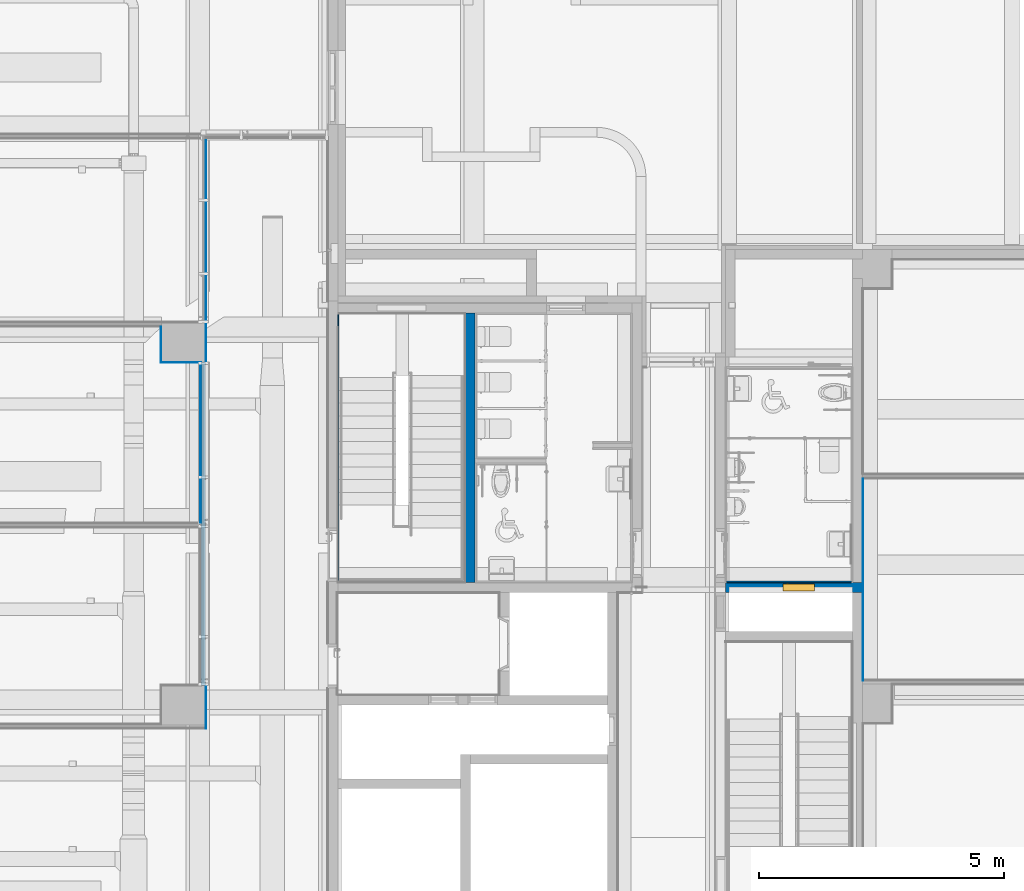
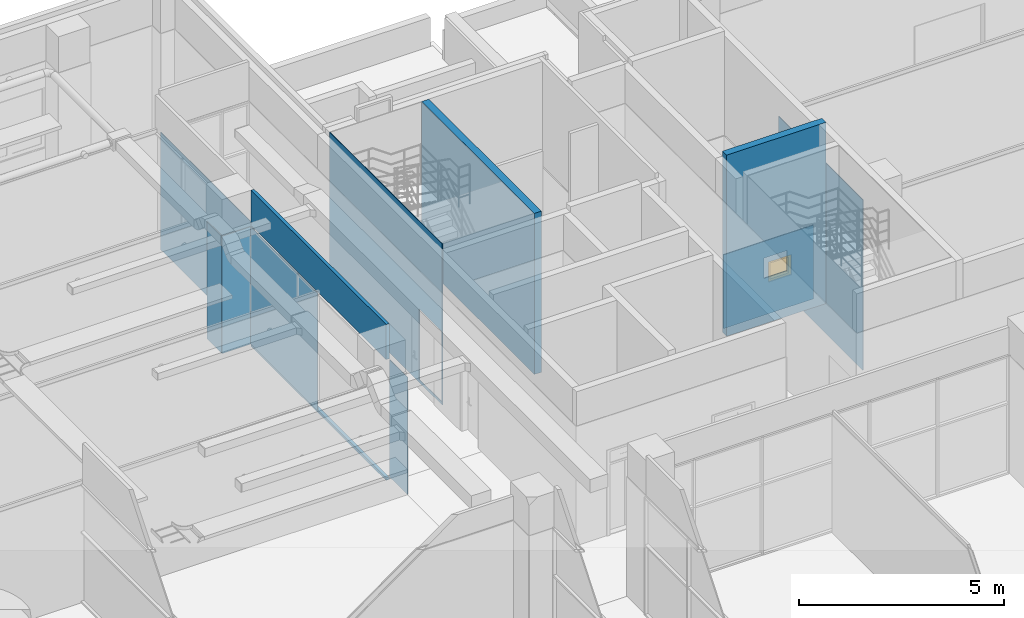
# One storey, part 46 of 100: 10 walls, 1 door, 5 openings.
"""IFC2X3 building model written with IfcOpenShell, lengths in millimetres."""

from ifc_helpers import new_model, entity, si_unit, converted_unit, derived_unit, direction, frame, frame_2d, origin, origin_2d_with_axis, place, context, subcontext, project, spatial, rectangle, extrude, faceted_brep, source, transform, mapped, material, material_list, layer, layer_set, layer_usage, type_object, type_shapes, element, fill, save


model = new_model("IFC2X3")

# Units and contexts
model_context = context("Model", 3, precision=0.01, world=origin(), true_north=direction((6.123031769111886e-17, 1.0)))
body_context = subcontext(model_context, "Body", "Model", "MODEL_VIEW")
ifc_project = project(units=[si_unit("LENGTHUNIT", "METRE", prefix="MILLI"), si_unit("AREAUNIT", "SQUARE_METRE"), si_unit("VOLUMEUNIT", "CUBIC_METRE"), converted_unit("PLANEANGLEUNIT", "DEGREE", entity("IfcRatioMeasure", 0.017453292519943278), si_unit("PLANEANGLEUNIT", "RADIAN"), dimensions=[0, 0, 0, 0, 0, 0, 0]), si_unit("MASSUNIT", "GRAM", prefix="KILO"), derived_unit("MASSDENSITYUNIT", [(si_unit("MASSUNIT", "GRAM", prefix="KILO"), 1), (si_unit("LENGTHUNIT", "METRE"), -3)]), derived_unit("MOMENTOFINERTIAUNIT", [(si_unit("LENGTHUNIT", "METRE"), 4)]), si_unit("TIMEUNIT", "SECOND"), si_unit("FREQUENCYUNIT", "HERTZ"), si_unit("THERMODYNAMICTEMPERATUREUNIT", "DEGREE_CELSIUS"), derived_unit("THERMALTRANSMITTANCEUNIT", [(si_unit("MASSUNIT", "GRAM", prefix="KILO"), 1), (si_unit("THERMODYNAMICTEMPERATUREUNIT", "KELVIN"), -1), (si_unit("TIMEUNIT", "SECOND"), -3)]), derived_unit("VOLUMETRICFLOWRATEUNIT", [(si_unit("LENGTHUNIT", "METRE"), 3), (si_unit("TIMEUNIT", "SECOND"), -1)]), derived_unit("MASSFLOWRATEUNIT", [(si_unit("MASSUNIT", "GRAM", prefix="KILO"), 1), (si_unit("TIMEUNIT", "SECOND"), -1)]), derived_unit("ROTATIONALFREQUENCYUNIT", [(si_unit("TIMEUNIT", "SECOND"), -1)]), si_unit("ELECTRICCURRENTUNIT", "AMPERE"), si_unit("ELECTRICVOLTAGEUNIT", "VOLT"), si_unit("POWERUNIT", "WATT"), si_unit("FORCEUNIT", "NEWTON", prefix="KILO"), si_unit("ILLUMINANCEUNIT", "LUX"), si_unit("LUMINOUSFLUXUNIT", "LUMEN"), si_unit("LUMINOUSINTENSITYUNIT", "CANDELA"), derived_unit("USERDEFINED", [(si_unit("MASSUNIT", "GRAM", prefix="KILO"), -1), (si_unit("LENGTHUNIT", "METRE"), -2), (si_unit("TIMEUNIT", "SECOND"), 3), (si_unit("LUMINOUSFLUXUNIT", "LUMEN"), 1)]), derived_unit("SOUNDPOWERUNIT", [(si_unit("MASSUNIT", "GRAM", prefix="KILO"), 1), (si_unit("LENGTHUNIT", "METRE"), 2), (si_unit("TIMEUNIT", "SECOND"), -3)]), derived_unit("SOUNDPRESSUREUNIT", [(si_unit("MASSUNIT", "GRAM", prefix="KILO"), 1), (si_unit("LENGTHUNIT", "METRE"), -1), (si_unit("TIMEUNIT", "SECOND"), -2)]), derived_unit("LINEARVELOCITYUNIT", [(si_unit("LENGTHUNIT", "METRE"), 1), (si_unit("TIMEUNIT", "SECOND"), -1)]), si_unit("PRESSUREUNIT", "PASCAL"), derived_unit("USERDEFINED", [(si_unit("LENGTHUNIT", "METRE"), -2), (si_unit("MASSUNIT", "GRAM", prefix="KILO"), 1), (si_unit("TIMEUNIT", "SECOND"), -2)]), derived_unit("LINEARFORCEUNIT", [(si_unit("MASSUNIT", "GRAM", prefix="KILO"), 1), (si_unit("LENGTHUNIT", "METRE"), 1), (si_unit("TIMEUNIT", "SECOND"), -2), (si_unit("LENGTHUNIT", "METRE"), -1)]), derived_unit("PLANARFORCEUNIT", [(si_unit("MASSUNIT", "GRAM", prefix="KILO"), 1), (si_unit("LENGTHUNIT", "METRE"), 1), (si_unit("TIMEUNIT", "SECOND"), -2), (si_unit("LENGTHUNIT", "METRE"), -2)])], contexts=[model_context])

# Site, building, storey
site_placement = place(None, frame((-14167.972527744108, -657.2125860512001, 0.0)))
site = spatial("IfcSite", under=ifc_project, at=site_placement, Name="Default", CompositionType="ELEMENT")
building_placement = place(site_placement, origin())
building = spatial("IfcBuilding", under=site, at=building_placement, Name="Sample Building", CompositionType="ELEMENT")
storey_placement = place(building_placement, origin())
storey = spatial("IfcBuildingStorey", under=building, at=storey_placement, Name="지상 1층", CompositionType="ELEMENT", Elevation=0.0)

# Wall
ifc_material_1 = material(Name="KBIMS-콘크리트")
ifc_layer_1 = layer(ifc_material_1, 200.0)
ifc_layer_set_1 = layer_set([ifc_layer_1], Name="기본 벽:WA111-철근콘크리트구조 벽 200mm_CW1")
ifc_layer_usage_1 = layer_usage(ifc_layer_set_1, "AXIS2", "NEGATIVE", 100.0)
wall_type_1 = type_object("IfcWallType", Name="기본 벽:WA111-철근콘크리트구조 벽 200mm_CW1", PredefinedType="STANDARD", material=ifc_layer_set_1)
wall_1_placement = place(storey_placement, frame((32967.97249113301, 27957.212307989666, 0.0), z_axis=(0.0, 0.0, 1.0), x_axis=(0.0, -1.0, 0.0)))
element("IfcWallStandardCase", 1, at=wall_1_placement, inside=storey, type_object=wall_type_1, material=ifc_layer_usage_1, Name="기본 벽:WA111-철근콘크리트구조 벽 200mm_CW1", ObjectType="기본 벽:WA111-철근콘크리트구조 벽 200mm_CW1", context=body_context, shape_type="SweptSolid", body=[
    extrude(rectangle(XDim=5499.999996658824, YDim=199.99999999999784, at=frame_2d((2749.999998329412, -4.263256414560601e-14), x_axis=(-1.0, 0.0))), origin(), (0.0, 0.0, 1.0), 4799.999999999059),
])

# Wall, opening, door
ifc_layer_usage_2 = layer_usage(ifc_layer_set_1, "AXIS2", "NEGATIVE", 100.0)
wall_2_placement = place(storey_placement, frame((40967.963798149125, 22357.21229848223, -600.0), z_axis=(0.0, 0.0, 1.0), x_axis=(-1.0, 0.0, 0.0)))
wall_2 = element("IfcWallStandardCase", 2, at=wall_2_placement, inside=storey, type_object=wall_type_1, material=ifc_layer_usage_2, Name="기본 벽:WA111-철근콘크리트구조 벽 200mm_CW1", ObjectType="기본 벽:WA111-철근콘크리트구조 벽 200mm_CW1", context=body_context, shape_type="SweptSolid", body=[
    extrude(rectangle(XDim=2800.000000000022, YDim=200.00000000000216, at=frame_2d((1400.000000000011, -1.8260948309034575e-12), x_axis=(-1.0, 0.0))), origin(), (0.0, 0.0, 1.0), 5400.000000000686),
])
opening_1_placement = place(wall_2_placement, frame((1624.991397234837, 100.0, 1200.0)))
opening_1 = element("IfcOpeningElement", 3, at=opening_1_placement, cuts=wall_2, Name="DR872-샤프트 점검구(스테인리스 스틸):DR872-샤프트 점검구(스테인리스 스틸)_650x600:1", ObjectType="Opening", context=body_context, shape_type="SweptSolid", body=[
    extrude(rectangle(XDim=600.0, YDim=649.9999999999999, at=frame_2d((300.0, 324.99999999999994), x_axis=(1.0, 0.0))), frame((0.0, 0.0, 0.0), z_axis=(0.0, -1.0, 0.0), x_axis=(0.0, 0.0, 1.0)), (0.0, 0.0, 1.0), 200.0),
])
ifc_material_2 = material(Name="KBIMS-스테인리스 스틸_도금")
ifc_material_list_1 = material_list([ifc_material_2, ifc_material_2, ifc_material_2, ifc_material_2])
ifc_material_list_2 = material_list([ifc_material_2, ifc_material_2, ifc_material_2, ifc_material_2])
door_style = type_object("IfcDoorStyle", Name="DR872-샤프트 점검구(스테인리스 스틸):DR872-샤프트 점검구(스테인리스 스틸)_650x600", ConstructionType="NOTDEFINED", OperationType="SINGLE_SWING_LEFT", ParameterTakesPrecedence=False, Sizeable=False, material=ifc_material_list_2)
shared_shape = source(origin(), body_context, "Body", "Brep", [
    faceted_brep([(105.0, 125.0, 282.67949192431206), (109.1421356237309, 125.0, 285.85786437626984), (102.50000000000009, 125.0, 287.0096189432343), (98.8822856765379, 125.0, 285.51111260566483), (100.17638090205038, 125.0, 280.6814834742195), (105.6066017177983, 125.0, 289.39339828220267), (112.32050807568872, 125.0, 290.0), (107.99038105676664, 125.0, 292.50000000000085), (109.48888739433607, 125.0, 296.1177143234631), (114.31851652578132, 125.0, 294.82361909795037), (110.0, 125.0, 300.0), (115.0, 125.0, 300.0), (109.48888739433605, 125.0, 303.8822856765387), (114.31851652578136, 125.0, 305.17638090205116), (107.9903810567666, 125.0, 307.5000000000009), (112.32050807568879, 125.0, 310.0), (105.60660171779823, 125.0, 310.6066017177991), (109.14213562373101, 125.0, 314.1421356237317), (102.50000000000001, 125.0, 312.9903810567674), (105.0, 125.0, 317.32050807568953), (98.8822856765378, 125.0, 314.48888739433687), (100.17638090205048, 125.0, 319.3185165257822), (95.0, 125.0, 315.0), (95.0, 125.0, 320.0), (91.11771432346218, 125.0, 314.48888739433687), (89.82361909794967, 125.0, 319.31851652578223), (87.5, 125.0, 312.9903810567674), (85.0, 125.0, 317.32050807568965), (84.39339828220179, 125.0, 310.6066017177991), (80.85786437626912, 125.0, 314.14213562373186), (82.00961894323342, 125.0, 307.5000000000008), (77.6794919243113, 125.0, 310.0), (75.68148347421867, 125.0, 305.17638090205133), (80.51111260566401, 125.0, 303.88228567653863), (75.0, 125.0, 300.0), (80.0, 125.0, 300.0), (75.68148347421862, 125.0, 294.8236190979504), (80.51111260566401, 125.0, 296.1177143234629), (77.67949192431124, 125.0, 290.0), (82.00961894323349, 125.0, 292.50000000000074), (80.85786437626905, 125.0, 285.8578643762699), (84.39339828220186, 125.0, 289.39339828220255), (85.0, 125.0, 282.67949192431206), (87.50000000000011, 125.0, 287.0096189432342), (89.82361909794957, 125.0, 280.6814834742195), (91.11771432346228, 125.0, 285.5111126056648), (95.0, 125.0, 280.0), (95.0, 125.0, 285.0), (105.0, 130.0, 317.32050807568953), (109.14213562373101, 130.0, 314.1421356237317), (102.50000000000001, 130.0, 312.9903810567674), (98.8822856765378, 130.0, 314.48888739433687), (100.17638090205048, 130.0, 319.3185165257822), (105.60660171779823, 130.0, 310.6066017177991), (112.32050807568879, 130.0, 310.0), (107.9903810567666, 130.0, 307.5000000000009), (109.48888739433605, 130.0, 303.8822856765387), (114.31851652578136, 130.0, 305.17638090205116), (110.0, 130.0, 300.0), (115.0, 130.0, 300.0), (109.48888739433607, 130.0, 296.1177143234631), (114.31851652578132, 130.0, 294.82361909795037), (107.99038105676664, 130.0, 292.50000000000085), (112.32050807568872, 130.0, 290.0), (105.6066017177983, 130.0, 289.39339828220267), (109.1421356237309, 130.0, 285.85786437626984), (102.50000000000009, 130.0, 287.0096189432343), (105.0, 130.0, 282.67949192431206), (98.8822856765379, 130.0, 285.51111260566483), (100.17638090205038, 130.0, 280.6814834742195), (95.0, 130.0, 285.0), (95.0, 130.0, 280.0), (91.11771432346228, 130.0, 285.5111126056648), (89.82361909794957, 130.0, 280.6814834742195), (87.50000000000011, 130.0, 287.0096189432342), (85.0, 130.0, 282.67949192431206), (84.39339828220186, 130.0, 289.39339828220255), (80.85786437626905, 130.0, 285.8578643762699), (82.00961894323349, 130.0, 292.50000000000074), (77.67949192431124, 130.0, 290.0), (75.68148347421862, 130.0, 294.8236190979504), (80.51111260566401, 130.0, 296.1177143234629), (75.0, 130.0, 300.0), (80.0, 130.0, 300.0), (75.68148347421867, 130.0, 305.17638090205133), (80.51111260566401, 130.0, 303.88228567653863), (77.6794919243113, 130.0, 310.0), (82.00961894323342, 130.0, 307.5000000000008), (80.85786437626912, 130.0, 314.14213562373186), (84.39339828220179, 130.0, 310.6066017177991), (85.0, 130.0, 317.32050807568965), (87.5, 130.0, 312.9903810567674), (89.82361909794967, 130.0, 319.31851652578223), (91.11771432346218, 130.0, 314.48888739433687), (95.0, 130.0, 320.0), (95.0, 130.0, 315.0)], [[[0, 1, 2]], [[0, 2, 3]], [[3, 4, 0]], [[2, 1, 5]], [[6, 5, 1]], [[7, 5, 6]], [[8, 7, 6]], [[8, 6, 9]], [[8, 9, 10]], [[10, 9, 11]], [[12, 10, 11]], [[12, 11, 13]], [[14, 12, 13]], [[14, 13, 15]], [[16, 14, 15]], [[15, 17, 16]], [[17, 18, 16]], [[18, 17, 19]], [[18, 19, 20]], [[21, 20, 19]], [[20, 21, 22]], [[22, 21, 23]], [[23, 24, 22]], [[24, 23, 25]], [[24, 25, 26]], [[27, 26, 25]], [[27, 28, 26]], [[27, 29, 28]], [[30, 28, 29]], [[31, 30, 29]], [[32, 30, 31]], [[33, 30, 32]], [[33, 32, 34]], [[34, 35, 33]], [[36, 35, 34]], [[36, 37, 35]], [[37, 36, 38]], [[39, 37, 38]], [[39, 38, 40]], [[39, 40, 41]], [[40, 42, 41]], [[41, 42, 43]], [[43, 42, 44]], [[44, 45, 43]], [[46, 45, 44]], [[4, 47, 46]], [[45, 46, 47]], [[4, 3, 47]], [[48, 49, 50]], [[48, 50, 51]], [[51, 52, 48]], [[50, 49, 53]], [[54, 53, 49]], [[55, 53, 54]], [[56, 55, 54]], [[56, 54, 57]], [[56, 57, 58]], [[58, 57, 59]], [[60, 58, 59]], [[60, 59, 61]], [[62, 60, 61]], [[62, 61, 63]], [[64, 62, 63]], [[63, 65, 64]], [[65, 66, 64]], [[66, 65, 67]], [[66, 67, 68]], [[69, 68, 67]], [[68, 69, 70]], [[70, 69, 71]], [[71, 72, 70]], [[72, 71, 73]], [[72, 73, 74]], [[75, 74, 73]], [[75, 76, 74]], [[75, 77, 76]], [[78, 76, 77]], [[79, 78, 77]], [[80, 78, 79]], [[81, 78, 80]], [[81, 80, 82]], [[82, 83, 81]], [[84, 83, 82]], [[84, 85, 83]], [[85, 84, 86]], [[87, 85, 86]], [[87, 86, 88]], [[87, 88, 89]], [[88, 90, 89]], [[89, 90, 91]], [[91, 90, 92]], [[92, 93, 91]], [[94, 93, 92]], [[52, 95, 94]], [[93, 94, 95]], [[52, 51, 95]], [[10, 58, 60, 8]], [[8, 60, 62, 7]], [[2, 5, 64, 66]], [[62, 64, 5, 7]], [[3, 2, 66, 68]], [[70, 47, 3, 68]], [[45, 72, 74, 43]], [[43, 74, 76, 41]], [[37, 39, 78, 81]], [[76, 78, 39, 41]], [[35, 37, 81, 83]], [[45, 47, 70, 72]], [[35, 83, 85, 33]], [[33, 85, 87, 30]], [[26, 28, 89, 91]], [[87, 89, 28, 30]], [[24, 26, 91, 93]], [[95, 22, 24, 93]], [[20, 51, 50, 18]], [[18, 50, 53, 16]], [[12, 14, 55, 56]], [[53, 55, 14, 16]], [[10, 12, 56, 58]], [[20, 22, 95, 51]], [[57, 13, 11, 59]], [[54, 15, 13, 57]], [[19, 17, 49, 48]], [[54, 49, 17, 15]], [[21, 19, 48, 52]], [[23, 21, 52, 94]], [[92, 25, 23, 94]], [[90, 27, 25, 92]], [[31, 29, 88, 86]], [[90, 88, 29, 27]], [[32, 31, 86, 84]], [[34, 32, 84, 82]], [[80, 36, 34, 82]], [[79, 38, 36, 80]], [[42, 40, 77, 75]], [[79, 77, 40, 38]], [[44, 42, 75, 73]], [[46, 44, 73, 71]], [[69, 4, 46, 71]], [[67, 0, 4, 69]], [[6, 1, 65, 63]], [[67, 65, 1, 0]], [[9, 6, 63, 61]], [[11, 9, 61, 59]]]),
    faceted_brep([(85.0, 180.0, 282.67949192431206), (80.85786437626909, 180.0, 285.85786437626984), (87.49999999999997, 180.0, 287.0096189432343), (91.11771432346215, 180.0, 285.51111260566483), (89.8236190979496, 180.0, 280.6814834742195), (84.39339828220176, 180.0, 289.39339828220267), (77.67949192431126, 180.0, 290.0), (82.00961894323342, 180.0, 292.50000000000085), (80.51111260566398, 180.0, 296.1177143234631), (75.68148347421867, 180.0, 294.82361909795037), (80.0, 180.0, 300.0), (75.0, 180.0, 300.0), (80.51111260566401, 180.0, 303.8822856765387), (75.68148347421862, 180.0, 305.17638090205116), (82.00961894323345, 180.0, 307.5000000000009), (77.6794919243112, 180.0, 310.0), (84.39339828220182, 180.0, 310.6066017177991), (80.85786437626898, 180.0, 314.1421356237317), (87.50000000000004, 180.0, 312.9903810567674), (85.0, 180.0, 317.32050807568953), (91.11771432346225, 180.0, 314.48888739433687), (89.8236190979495, 180.0, 319.3185165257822), (95.0, 180.0, 315.0), (95.0, 180.0, 320.0), (98.88228567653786, 180.0, 314.48888739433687), (100.17638090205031, 180.0, 319.31851652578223), (102.50000000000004, 180.0, 312.9903810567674), (105.0, 180.0, 317.32050807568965), (105.60660171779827, 180.0, 310.6066017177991), (109.14213562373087, 180.0, 314.14213562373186), (107.99038105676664, 180.0, 307.5000000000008), (112.32050807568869, 180.0, 310.0), (114.31851652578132, 180.0, 305.17638090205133), (109.48888739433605, 180.0, 303.88228567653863), (115.0, 180.0, 300.0), (110.0, 180.0, 300.0), (114.31851652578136, 180.0, 294.8236190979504), (109.48888739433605, 180.0, 296.1177143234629), (112.32050807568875, 180.0, 290.0), (107.99038105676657, 180.0, 292.50000000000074), (109.14213562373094, 180.0, 285.8578643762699), (105.6066017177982, 180.0, 289.39339828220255), (105.0, 180.0, 282.67949192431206), (102.49999999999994, 180.0, 287.0096189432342), (100.17638090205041, 180.0, 280.6814834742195), (98.88228567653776, 180.0, 285.5111126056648), (95.0, 180.0, 280.0), (95.0, 180.0, 285.0), (85.0, 175.0, 317.32050807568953), (80.85786437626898, 175.0, 314.1421356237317), (87.50000000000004, 175.0, 312.9903810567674), (91.11771432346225, 175.0, 314.48888739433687), (89.8236190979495, 175.0, 319.3185165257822), (84.39339828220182, 175.0, 310.6066017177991), (77.6794919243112, 175.0, 310.0), (82.00961894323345, 175.0, 307.5000000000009), (80.51111260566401, 175.0, 303.8822856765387), (75.68148347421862, 175.0, 305.17638090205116), (80.0, 175.0, 300.0), (75.0, 175.0, 300.0), (80.51111260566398, 175.0, 296.1177143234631), (75.68148347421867, 175.0, 294.82361909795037), (82.00961894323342, 175.0, 292.50000000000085), (77.67949192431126, 175.0, 290.0), (84.39339828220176, 175.0, 289.39339828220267), (80.85786437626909, 175.0, 285.85786437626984), (87.49999999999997, 175.0, 287.0096189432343), (85.0, 175.0, 282.67949192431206), (91.11771432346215, 175.0, 285.51111260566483), (89.8236190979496, 175.0, 280.6814834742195), (95.0, 175.0, 285.0), (95.0, 175.0, 280.0), (98.88228567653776, 175.0, 285.5111126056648), (100.17638090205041, 175.0, 280.6814834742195), (102.49999999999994, 175.0, 287.0096189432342), (105.0, 175.0, 282.67949192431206), (105.6066017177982, 175.0, 289.39339828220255), (109.14213562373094, 175.0, 285.8578643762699), (107.99038105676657, 175.0, 292.50000000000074), (112.32050807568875, 175.0, 290.0), (114.31851652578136, 175.0, 294.8236190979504), (109.48888739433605, 175.0, 296.1177143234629), (115.0, 175.0, 300.0), (110.0, 175.0, 300.0), (114.31851652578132, 175.0, 305.17638090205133), (109.48888739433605, 175.0, 303.88228567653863), (112.32050807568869, 175.0, 310.0), (107.99038105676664, 175.0, 307.5000000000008), (109.14213562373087, 175.0, 314.14213562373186), (105.60660171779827, 175.0, 310.6066017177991), (105.0, 175.0, 317.32050807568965), (102.50000000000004, 175.0, 312.9903810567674), (100.17638090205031, 175.0, 319.31851652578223), (98.88228567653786, 175.0, 314.48888739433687), (95.0, 175.0, 320.0), (95.0, 175.0, 315.0)], [[[0, 1, 2]], [[0, 2, 3]], [[3, 4, 0]], [[2, 1, 5]], [[6, 5, 1]], [[7, 5, 6]], [[8, 7, 6]], [[8, 6, 9]], [[8, 9, 10]], [[10, 9, 11]], [[12, 10, 11]], [[12, 11, 13]], [[14, 12, 13]], [[14, 13, 15]], [[16, 14, 15]], [[15, 17, 16]], [[17, 18, 16]], [[18, 17, 19]], [[18, 19, 20]], [[21, 20, 19]], [[20, 21, 22]], [[22, 21, 23]], [[23, 24, 22]], [[24, 23, 25]], [[24, 25, 26]], [[27, 26, 25]], [[27, 28, 26]], [[27, 29, 28]], [[30, 28, 29]], [[31, 30, 29]], [[32, 30, 31]], [[33, 30, 32]], [[33, 32, 34]], [[34, 35, 33]], [[36, 35, 34]], [[36, 37, 35]], [[37, 36, 38]], [[39, 37, 38]], [[39, 38, 40]], [[39, 40, 41]], [[40, 42, 41]], [[41, 42, 43]], [[43, 42, 44]], [[44, 45, 43]], [[46, 45, 44]], [[4, 47, 46]], [[45, 46, 47]], [[4, 3, 47]], [[48, 49, 50]], [[48, 50, 51]], [[51, 52, 48]], [[50, 49, 53]], [[54, 53, 49]], [[55, 53, 54]], [[56, 55, 54]], [[56, 54, 57]], [[56, 57, 58]], [[58, 57, 59]], [[60, 58, 59]], [[60, 59, 61]], [[62, 60, 61]], [[62, 61, 63]], [[64, 62, 63]], [[63, 65, 64]], [[65, 66, 64]], [[66, 65, 67]], [[66, 67, 68]], [[69, 68, 67]], [[68, 69, 70]], [[70, 69, 71]], [[71, 72, 70]], [[72, 71, 73]], [[72, 73, 74]], [[75, 74, 73]], [[75, 76, 74]], [[75, 77, 76]], [[78, 76, 77]], [[79, 78, 77]], [[80, 78, 79]], [[81, 78, 80]], [[81, 80, 82]], [[82, 83, 81]], [[84, 83, 82]], [[84, 85, 83]], [[85, 84, 86]], [[87, 85, 86]], [[87, 86, 88]], [[87, 88, 89]], [[88, 90, 89]], [[89, 90, 91]], [[91, 90, 92]], [[92, 93, 91]], [[94, 93, 92]], [[52, 95, 94]], [[93, 94, 95]], [[52, 51, 95]], [[35, 83, 85, 33]], [[33, 85, 87, 30]], [[26, 28, 89, 91]], [[87, 89, 28, 30]], [[24, 26, 91, 93]], [[95, 22, 24, 93]], [[20, 51, 50, 18]], [[18, 50, 53, 16]], [[12, 14, 55, 56]], [[53, 55, 14, 16]], [[10, 12, 56, 58]], [[20, 22, 95, 51]], [[10, 58, 60, 8]], [[8, 60, 62, 7]], [[2, 5, 64, 66]], [[62, 64, 5, 7]], [[3, 2, 66, 68]], [[70, 47, 3, 68]], [[45, 72, 74, 43]], [[43, 74, 76, 41]], [[37, 39, 78, 81]], [[76, 78, 39, 41]], [[35, 37, 81, 83]], [[45, 47, 70, 72]], [[80, 36, 34, 82]], [[79, 38, 36, 80]], [[42, 40, 77, 75]], [[79, 77, 40, 38]], [[44, 42, 75, 73]], [[46, 44, 73, 71]], [[69, 4, 46, 71]], [[67, 0, 4, 69]], [[6, 1, 65, 63]], [[67, 65, 1, 0]], [[9, 6, 63, 61]], [[11, 9, 61, 59]], [[57, 13, 11, 59]], [[54, 15, 13, 57]], [[19, 17, 49, 48]], [[54, 49, 17, 15]], [[21, 19, 48, 52]], [[23, 21, 52, 94]], [[92, 25, 23, 94]], [[90, 27, 25, 92]], [[31, 29, 88, 86]], [[90, 88, 29, 27]], [[32, 31, 86, 84]], [[34, 32, 84, 82]]]),
    faceted_brep([(620.0, 175.0, 570.0), (30.0, 175.0, 570.0), (30.0, 130.0, 570.0), (620.0, 130.0, 570.0), (620.0, 175.0, 30.0), (620.0, 130.0, 30.0), (30.0, 130.0, 30.0), (30.0, 175.0, 30.0)], [[[0, 1, 2, 3]], [[4, 5, 6, 7]], [[1, 0, 4, 7]], [[2, 1, 7, 6]], [[3, 2, 6, 5]], [[0, 3, 5, 4]]]),
    faceted_brep([(30.0, 130.0, 570.0), (30.0, 175.0, 570.0), (620.0, 175.0, 570.0), (620.0, 130.0, 570.0), (60.0, 25.0, 540.0), (60.0, 130.0, 540.0), (590.0, 130.0, 540.0), (590.0, 25.0, 540.0), (0.0, 175.0, 600.0), (0.0, 25.0, 600.0), (650.0, 25.0, 600.0), (650.0, 175.0, 600.0), (620.0, 175.0, 30.0), (620.0, 130.0, 30.0), (590.0, 130.0, 60.0), (590.0, 25.0, 60.0), (650.0, 25.0, 0.0), (650.0, 175.0, 0.0), (30.0, 175.0, 30.0), (30.0, 130.0, 30.0), (60.0, 130.0, 60.0), (60.0, 25.0, 60.0), (0.0, 25.0, 0.0), (0.0, 175.0, 0.0)], [[[0, 1, 2, 3]], [[4, 5, 6, 7]], [[8, 9, 10, 11]], [[3, 2, 12, 13]], [[7, 6, 14, 15]], [[11, 10, 16, 17]], [[13, 12, 18, 19]], [[15, 14, 20, 21]], [[17, 16, 22, 23]], [[19, 18, 1, 0]], [[3, 13, 19, 0], [5, 20, 14, 6]], [[21, 20, 5, 4]], [[7, 15, 21, 4], [9, 22, 16, 10]], [[23, 22, 9, 8]], [[11, 17, 23, 8], [1, 18, 12, 2]]], outer=[[True], [True], [True], [True], [True], [True], [True], [True], [True], [True], [True, False], [True], [False, True], [True], [True, False]]),
])
type_shapes(door_style, [shared_shape])
door_placement = place(opening_1_placement, frame((0.0, 0.0, 0.0), z_axis=(0.0, 0.0, 1.0), x_axis=(-1.0, 0.0, 0.0)))
door = element("IfcDoor", 4, at=door_placement, inside=storey, type_object=door_style, material=ifc_material_list_1, Name="DR872-샤프트 점검구(스테인리스 스틸):DR872-샤프트 점검구(스테인리스 스틸)_650x600", ObjectType="DR872-샤프트 점검구(스테인리스 스틸):DR872-샤프트 점검구(스테인리스 스틸)_650x600", OverallHeight=600.0, OverallWidth=649.9999999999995, context=body_context, shape_type="MappedRepresentation", body=[
    mapped(shared_shape, transform((0.0, 0.0, 0.0), scale=1.0)),
])
fill(opening_1, door)

# Wall, opening
ifc_material_3 = material(Name="KBIMS-시멘트 벽돌")
ifc_layer_2 = layer(ifc_material_3, 90.0)
ifc_layer_set_2 = layer_set([ifc_layer_2], Name="기본 벽:WA211-시멘트벽돌(일반) 벽 (0.5B) 90mm")
ifc_layer_usage_3 = layer_usage(ifc_layer_set_2, "AXIS2", "NEGATIVE", 45.0)
wall_type_2 = type_object("IfcWallType", Name="기본 벽:WA211-시멘트벽돌(일반) 벽 (0.5B) 90mm", PredefinedType="STANDARD", material=ifc_layer_set_2)
wall_3_placement = place(storey_placement, frame((27522.955141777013, 20357.21230798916, 0.0), z_axis=(0.0, 0.0, 1.0), x_axis=(0.0, 1.0, 0.0)))
wall_3 = element("IfcWallStandardCase", 5, at=wall_3_placement, inside=storey, type_object=wall_type_2, material=ifc_layer_usage_3, Name="기본 벽:WA211-시멘트벽돌(일반) 벽 (0.5B) 90mm", ObjectType="기본 벽:WA211-시멘트벽돌(일반) 벽 (0.5B) 90mm", context=body_context, shape_type="SweptSolid", body=[
    extrude(rectangle(XDim=6599.982583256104, YDim=90.0000000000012, at=frame_2d((3299.991291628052, -7.034373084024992e-13), x_axis=(-1.0, 0.0))), origin(), (0.0, 0.0, 1.0), 4650.000000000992),
])
opening_2_placement = place(wall_3_placement, origin())
element("IfcOpeningElement", 6, at=opening_2_placement, cuts=wall_3, Name="기본 벽:WA211-시멘트벽돌(일반) 벽 (0.5B) 90mm", ObjectType="Opening", context=body_context, shape_type="SweptSolid", body=[
    extrude(rectangle(XDim=3520.000000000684, YDim=6599.982583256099, at=frame_2d((-1.1368683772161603e-13, -2.2737367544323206e-12), x_axis=(1.0, 0.0))), frame((3299.991291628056, -197.4000000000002, 1840.0), z_axis=(0.0, 1.0, 0.0), x_axis=(0.0, 0.0, 1.0)), (0.0, 0.0, 1.0), 394.8000000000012),
])

ifc_material_4 = material(Name="WA611-수성페인트 (내부) 벽 (3회)")
ifc_layer_3 = layer(ifc_material_4, 1.0)
ifc_material_5 = material(Name="WA551-시멘트모르타르 (내부) 벽 18mm")
ifc_layer_4 = layer(ifc_material_5, 16.0)
ifc_material_6 = material(Name="WA555-콘크리트면정리 벽 (내부)")
ifc_layer_5 = layer(ifc_material_6, 1.0)
ifc_layer_set_3 = layer_set([ifc_layer_3, ifc_layer_4, ifc_layer_5], Name="기본 벽:A1-32-06A-콘크리트면정리, 시멘트모르타르(미장용), 수성페인트(내부) (18mm)")
ifc_layer_usage_4 = layer_usage(ifc_layer_set_3, "AXIS2", "NEGATIVE", 9.000000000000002)
wall_type_3 = type_object("IfcWallType", Name="기본 벽:A1-32-06A-콘크리트면정리, 시멘트모르타르(미장용), 수성페인트(내부) (18mm)", PredefinedType="STANDARD", material=ifc_layer_set_3)
wall_4_placement = place(storey_placement, frame((27576.955141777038, 31524.16033135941, 80.0), z_axis=(0.0, 0.0, 1.0), x_axis=(0.0, -1.0, 0.0)))
wall_4 = element("IfcWallStandardCase", 7, at=wall_4_placement, inside=storey, type_object=wall_type_3, material=ifc_layer_usage_4, Name="기본 벽:A1-32-06A-콘크리트면정리, 시멘트모르타르(미장용), 수성페인트(내부) (18mm)", ObjectType="기본 벽:A1-32-06A-콘크리트면정리, 시멘트모르타르(미장용), 수성페인트(내부) (18mm)", context=body_context, shape_type="SweptSolid", body=[
    extrude(rectangle(XDim=18.00000000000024, YDim=12047.482706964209, at=frame_2d((6023.741353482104, -2.183142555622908e-12), x_axis=(0.0, -1.0))), origin(), (0.0, 0.0, 1.0), 3500.0000000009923),
])
opening_3_placement = place(wall_4_placement, origin())
element("IfcOpeningElement", 8, at=opening_3_placement, cuts=wall_4, Name="기본 벽:A1-32-06A-콘크리트면정리, 시멘트모르타르(미장용), 수성페인트(내부) (18mm)", ObjectType="Opening", context=body_context, shape_type="SweptSolid", body=[
    extrude(rectangle(XDim=3520.000000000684, YDim=6599.982583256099, at=frame_2d((2.2737367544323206e-12, 0.0), x_axis=(0.0, 1.0))), frame((7866.956731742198, -161.40000000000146, 1760.0), z_axis=(0.0, 1.0, 0.0), x_axis=(-1.0, 0.0, 0.0)), (0.0, 0.0, 1.0), 322.80000000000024),
])

# Walls
ifc_layer_usage_5 = layer_usage(ifc_layer_set_3, "AXIS2", "NEGATIVE", 9.000000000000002)
wall_5_placement = place(storey_placement, frame((27468.955141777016, 23675.16020764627, 80.0), z_axis=(0.0, 0.0, 1.0), x_axis=(0.0, 1.0, 0.0)))
element("IfcWallStandardCase", 9, at=wall_5_placement, inside=storey, type_object=wall_type_3, material=ifc_layer_usage_5, Name="기본 벽:A1-32-06A-콘크리트면정리, 시멘트모르타르(미장용), 수성페인트(내부) (18mm)", ObjectType="기본 벽:A1-32-06A-콘크리트면정리, 시멘트모르타르(미장용), 수성페인트(내부) (18mm)", context=body_context, shape_type="SweptSolid", body=[
    extrude(rectangle(XDim=3264.0346835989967, YDim=18.00000000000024, at=frame_2d((1632.0173417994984, -2.177813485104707e-12), x_axis=(-1.0, 0.0))), origin(), (0.0, 0.0, 1.0), 3500.0000000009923),
])
ifc_layer_usage_6 = layer_usage(ifc_layer_set_3, "AXIS2", "NEGATIVE", 9.000000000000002)
wall_6_placement = place(storey_placement, frame((27477.955141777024, 26948.194891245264, 80.0), z_axis=(0.0, 0.0, 1.0), x_axis=(-1.0, 0.0, 0.0)))
element("IfcWallStandardCase", 10, at=wall_6_placement, inside=storey, type_object=wall_type_3, material=ifc_layer_usage_6, Name="기본 벽:A1-32-06A-콘크리트면정리, 시멘트모르타르(미장용), 수성페인트(내부) (18mm)", ObjectType="기본 벽:A1-32-06A-콘크리트면정리, 시멘트모르타르(미장용), 수성페인트(내부) (18mm)", context=body_context, shape_type="SweptSolid", body=[
    extrude(rectangle(XDim=827.9826506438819, YDim=18.00000000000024, at=frame_2d((413.99132532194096, -2.0534685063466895e-12), x_axis=(-1.0, 0.0))), origin(), (0.0, 0.0, 1.0), 3500.0000000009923),
])
ifc_layer_usage_7 = layer_usage(ifc_layer_set_3, "AXIS2", "NEGATIVE", 9.000000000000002)
wall_7_placement = place(storey_placement, frame((26658.97249113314, 26957.194891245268, 80.0), z_axis=(0.0, 0.0, 1.0), x_axis=(0.0, 1.0, 0.0)))
element("IfcWallStandardCase", 11, at=wall_7_placement, inside=storey, type_object=wall_type_3, material=ifc_layer_usage_7, Name="기본 벽:A1-32-06A-콘크리트면정리, 시멘트모르타르(미장용), 수성페인트(내부) (18mm)", ObjectType="기본 벽:A1-32-06A-콘크리트면정리, 시멘트모르타르(미장용), 수성페인트(내부) (18mm)", context=body_context, shape_type="SweptSolid", body=[
    extrude(rectangle(XDim=719.5176948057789, YDim=18.00000000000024, at=frame_2d((359.75884740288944, -2.1662671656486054e-12), x_axis=(-1.0, 0.0))), origin(), (0.0, 0.0, 1.0), 3500.0000000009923),
])
ifc_layer_usage_8 = layer_usage(ifc_layer_set_3, "AXIS2", "NEGATIVE", 9.000000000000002)
wall_8_placement = place(storey_placement, frame((40976.96379815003, 24576.677647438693, -1500.0), z_axis=(0.0, 0.0, 1.0), x_axis=(0.0, -1.0, 0.0)))
element("IfcWallStandardCase", 12, at=wall_8_placement, inside=storey, type_object=wall_type_3, material=ifc_layer_usage_8, Name="기본 벽:A1-32-06A-콘크리트면정리, 시멘트모르타르(미장용), 수성페인트(내부) (18mm)", ObjectType="기본 벽:A1-32-06A-콘크리트면정리, 시멘트모르타르(미장용), 수성페인트(내부) (18mm)", context=body_context, shape_type="SweptSolid", body=[
    extrude(rectangle(XDim=4119.465339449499, YDim=17.999999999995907, at=frame_2d((2059.7326697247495, 3.907985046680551e-14), x_axis=(-1.0, 0.0))), origin(), (0.0, 0.0, 1.0), 5080.000000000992),
])

# Wall, opening
ifc_layer_usage_9 = layer_usage(ifc_layer_set_3, "AXIS2", "POSITIVE", -9.000000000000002)
wall_9_placement = place(storey_placement, frame((30276.963761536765, 22457.194894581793, 0.0), z_axis=(0.0, 0.0, 1.0), x_axis=(0.0, 1.0, 0.0)))
wall_9 = element("IfcWallStandardCase", 13, at=wall_9_placement, inside=storey, type_object=wall_type_3, material=ifc_layer_usage_9, Name="기본 벽:A1-32-06A-콘크리트면정리, 시멘트모르타르(미장용), 수성페인트(내부) (18mm)", ObjectType="기본 벽:A1-32-06A-콘크리트면정리, 시멘트모르타르(미장용), 수성페인트(내부) (18mm)", context=body_context, shape_type="SweptSolid", body=[
    extrude(rectangle(XDim=5499.999996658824, YDim=18.00000000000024, at=frame_2d((2749.999998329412, -2.1662671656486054e-12), x_axis=(-1.0, 0.0))), origin(), (0.0, 0.0, 1.0), 4800.000000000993),
])
opening_4_placement = place(wall_9_placement, origin())
element("IfcOpeningElement", 14, at=opening_4_placement, cuts=wall_9, Name="기본 벽:A1-32-06A-콘크리트면정리, 시멘트모르타르(미장용), 수성페인트(내부) (18mm)", ObjectType="Opening", context=body_context, shape_type="SweptSolid", body=[
    extrude(rectangle(XDim=2099.999999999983, YDim=1100.0000000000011, at=origin_2d_with_axis()), frame((569.9827331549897, -1513.1620529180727, 1130.0), z_axis=(0.0, 1.0, 0.0), x_axis=(0.0, 0.0, 1.0)), (0.0, 0.0, 1.0), 3048.0),
])

ifc_material_7 = material(Name="WA352-도기질타일 벽 200x200")
ifc_layer_6 = layer(ifc_material_7, 8.0)
ifc_material_8 = material(Name="WA551-시멘트모르타르 (내부) 벽 22mm")
ifc_layer_7 = layer(ifc_material_8, 22.0)
ifc_layer_set_4 = layer_set([ifc_layer_6, ifc_layer_7], Name="기본 벽:A1-33-01B-시멘트 모르타르, 도기질타일 (30mm)")
ifc_layer_usage_10 = layer_usage(ifc_layer_set_4, "AXIS2", "NEGATIVE", 15.0)
wall_type_4 = type_object("IfcWallType", Name="기본 벽:A1-33-01B-시멘트 모르타르, 도기질타일 (30mm)", PredefinedType="STANDARD", material=ifc_layer_set_4)
wall_10_placement = place(storey_placement, frame((40737.96379815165, 22472.27751121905, -500.0), z_axis=(0.0, 0.0, 1.0), x_axis=(-1.0, 0.0, 0.0)))
wall_10 = element("IfcWallStandardCase", 15, at=wall_10_placement, inside=storey, type_object=wall_type_4, material=ifc_layer_usage_10, Name="기본 벽:A1-33-01B-시멘트 모르타르, 도기질타일 (30mm)", ObjectType="기본 벽:A1-33-01B-시멘트 모르타르, 도기질타일 (30mm)", context=body_context, shape_type="SweptSolid", body=[
    extrude(rectangle(XDim=2540.000000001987, YDim=30.000000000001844, at=frame_2d((1270.0000000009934, 0.0), x_axis=(-1.0, 0.0))), origin(), (0.0, 0.0, 1.0), 2200.0),
])
opening_5_placement = place(wall_10_placement, origin())
element("IfcOpeningElement", 16, at=opening_5_placement, cuts=wall_10, Name="기본 벽:A1-33-01B-시멘트 모르타르, 도기질타일 (30mm)", ObjectType="Opening", context=body_context, shape_type="SweptSolid", body=[
    extrude(rectangle(XDim=600.0, YDim=649.9999999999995, at=frame_2d((0.0, -4.348521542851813e-12), x_axis=(1.0, 0.0))), frame((1069.991397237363, -1308.934787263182, 1400.0), z_axis=(0.0, 1.0, 0.0), x_axis=(0.0, 0.0, 1.0)), (0.0, 0.0, 1.0), 3048.0),
])

save(model, "model.ifc")
